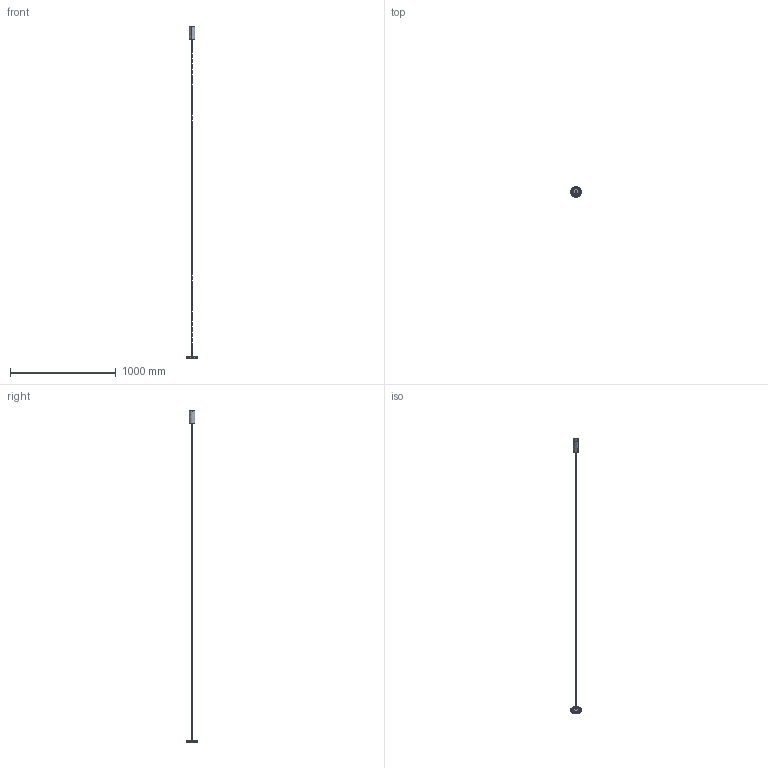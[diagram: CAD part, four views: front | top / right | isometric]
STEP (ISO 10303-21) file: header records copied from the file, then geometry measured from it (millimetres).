
FILE_DESCRIPTION(/* description */ (''),/* implementation_level */ '2;1');
FILE_NAME(/* name */ 'L053__~1',/* time_stamp */ '2024-07-04T14:12:44+02:00',/* author */ (''),/* organization */ (''),/* preprocessor_version */ 'ST-DEVELOPER v16.5',/* originating_system */ '',/* authorisation */ '');
FILE_SCHEMA (('AUTOMOTIVE_DESIGN'));
Length unit declared in the file: millimetre
Products named in the file (1): Document
Bounding box: 100.92 x 100.99 x 3136 mm (x, y, z)
Volume: 122619.4 mm3; surface area: 169630.9 mm2
Topology: 13 solids, 13 shells, 390 faces, 919 edges, 553 vertices
Faces by surface type: bspline 284, plane 106
Entity records: 38674 total; most frequent: CARTESIAN_POINT 33271, ORIENTED_EDGE 1808, EDGE_CURVE 904, VERTEX_POINT 553, B_SPLINE_CURVE_WITH_KNOTS 487, EDGE_LOOP 425, ADVANCED_FACE 390, FACE_OUTER_BOUND 390
